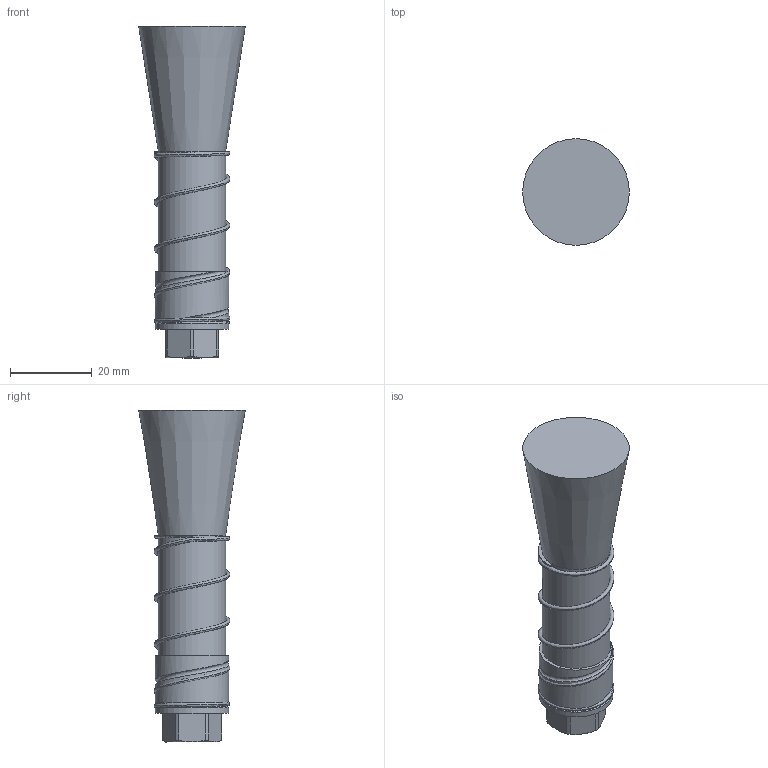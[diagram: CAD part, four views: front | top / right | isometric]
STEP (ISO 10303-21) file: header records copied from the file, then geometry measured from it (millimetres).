
FILE_DESCRIPTION (( 'STEP AP214' ), '1' );
FILE_NAME ('012_0116_0160_50.STEP', '2026-01-14T15:44:47', ( '' ), ( '' ), 'SwSTEP 2.0', 'SolidWorks 2022', '' );
FILE_SCHEMA (( 'AUTOMOTIVE_DESIGN' ));
Length unit declared in the file: millimetre
Products named in the file (3): 012_16_0160_02; 012_0116_0160_50; VD_145D_01_2
Assembly tree (2 placements, depth 2):
  012_0116_0160_50
    012_16_0160_02
    VD_145D_01_2
Bounding box: 26 x 26 x 81 mm (x, y, z)
Volume: 21657.7 mm3; surface area: 6751.2 mm2
Topology: 2 solids, 2 shells, 39 faces, 88 edges, 55 vertices
Faces by surface type: plane 15, cylinder 11, cone 9, bspline 4
Full cylindrical faces by diameter (mm): 2 x1, 8.6 x1, 16.5 x1, 18 x1
Entity records: 7626 total; most frequent: CARTESIAN_POINT 6702, DIRECTION 160, ORIENTED_EDGE 150, EDGE_CURVE 75, AXIS2_PLACEMENT_3D 70, VERTEX_POINT 51, EDGE_LOOP 50, FACE_OUTER_BOUND 44
